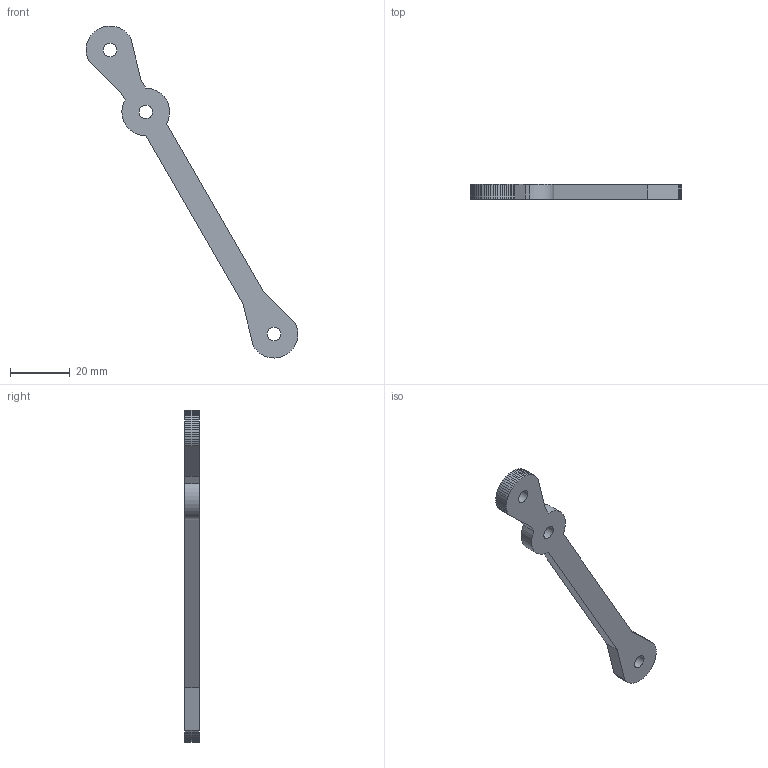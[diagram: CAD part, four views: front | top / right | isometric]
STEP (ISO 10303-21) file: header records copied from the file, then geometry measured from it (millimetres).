
FILE_DESCRIPTION(('Open CASCADE Model'),'2;1');
FILE_NAME('Open CASCADE Shape Model','2026-10-13T11:47:37',('Author'),( 'Open CASCADE'),'Open CASCADE STEP processor 7.8','Open CASCADE 7.8' ,'Unknown');
FILE_SCHEMA(('AUTOMOTIVE_DESIGN { 1 0 10303 214 1 1 1 1 }'));
Length unit declared in the file: millimetre
Products named in the file (1): Open CASCADE STEP translator 7.8 41
Bounding box: 70.99 x 5 x 111.25 mm (x, y, z)
Volume: 6118.2 mm3; surface area: 4050.8 mm2
Topology: 1 solids, 1 shells, 79 faces, 231 edges, 154 vertices
Faces by surface type: plane 74, cylinder 5
Full cylindrical faces by diameter (mm): 4.5 x3
Entity records: 5614 total; most frequent: CARTESIAN_POINT 967, DIRECTION 853, LINE 669, VECTOR 669, ORIENTED_EDGE 462, PCURVE 462, DEFINITIONAL_REPRESENTATION 462, EDGE_CURVE 231
